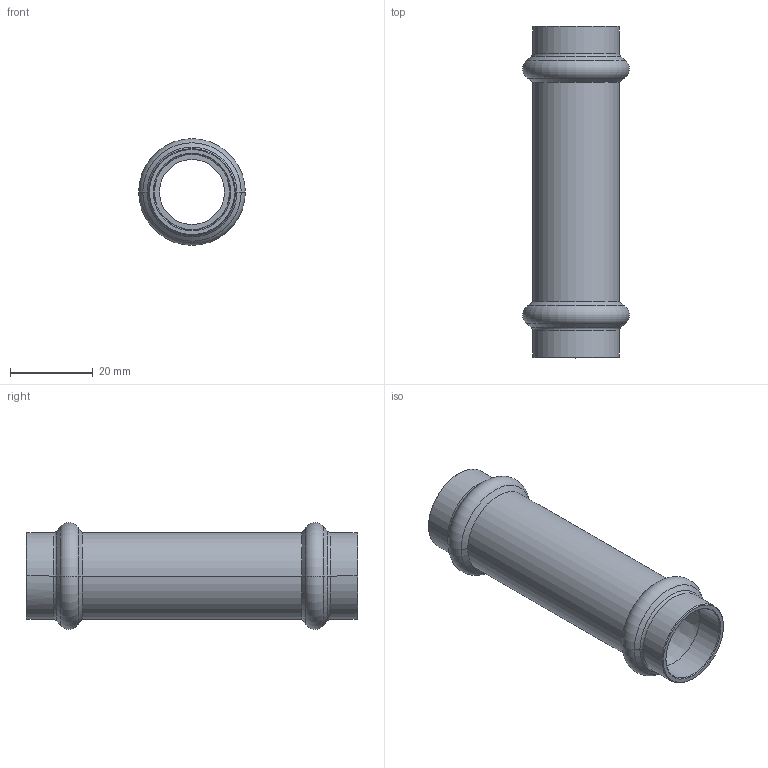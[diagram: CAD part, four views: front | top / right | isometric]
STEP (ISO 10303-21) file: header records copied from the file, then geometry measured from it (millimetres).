
FILE_DESCRIPTION(('CoCreate Modeling STEP Export'),'2;1');
FILE_NAME('8275VW18.stp','2013-01-29T12:42:58',(''),(''),'CoCreate Modeling STEP processor for AP214 (Solid Model)','CoCreate Modeling 17.00A 17-Jun-2010 (C) Parametric Technology GmbH','');
FILE_SCHEMA(('AUTOMOTIVE_DESIGN { 1 0 10303 214 1 1 1 1 }'));
Length unit declared in the file: millimetre
Products named in the file (1): 8275VW18
Bounding box: 25.7 x 80 x 25.7 mm (x, y, z)
Volume: 8024.9 mm3; surface area: 10635.8 mm2
Topology: 1 solids, 1 shells, 58 faces, 122 edges, 70 vertices
Faces by surface type: cone 20, cylinder 20, torus 12, plane 6
Entity records: 1262 total; most frequent: ORIENTED_EDGE 244, DIRECTION 194, CARTESIAN_POINT 187, EDGE_CURVE 122, AXIS2_PLACEMENT_3D 77, VERTEX_POINT 70, EDGE_LOOP 64, FACE_OUTER_BOUND 58
